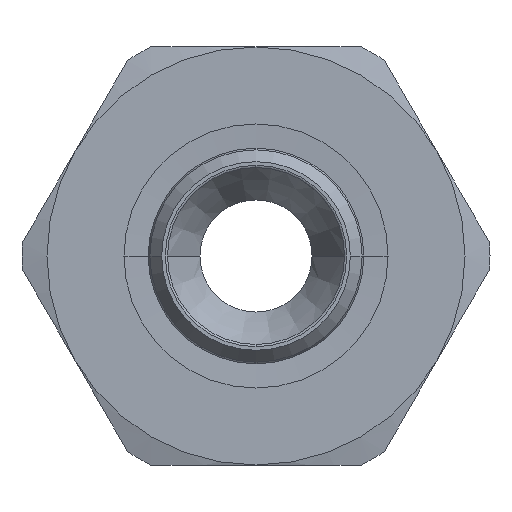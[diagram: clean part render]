
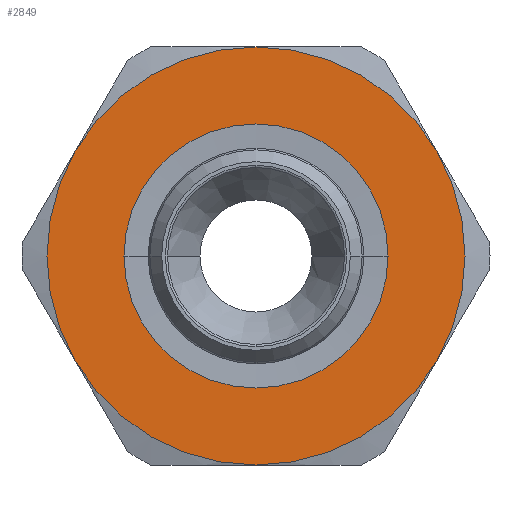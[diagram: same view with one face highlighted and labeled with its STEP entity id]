
A CAD part, left-side view. The second image highlights one B-rep face of the part: STEP entity #2849.
In plain terms, the highlighted planar face has unit normal (-1, 0, 0) as drawn and (0, 0, 1) by its records, which use the part's own axes.
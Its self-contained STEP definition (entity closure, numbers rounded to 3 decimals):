
#1176=CARTESIAN_POINT('',(0.,-12.95,5.));
#1177=VERTEX_POINT('',#1176);
#1193=CARTESIAN_POINT('',(0.,12.95,5.0));
#1194=VERTEX_POINT('',#1193);
#1201=CARTESIAN_POINT('',(0.,0.,5.0));
#1202=DIRECTION('',(0.0,0.0,-1.0));
#1203=DIRECTION('',(0.0,-1.0,0.0));
#1204=AXIS2_PLACEMENT_3D('',#1201,#1202,#1203);
#1205=CIRCLE('',#1204,12.95);
#1206=EDGE_CURVE('',#1177,#1194,#1205,.T.);
#1663=CARTESIAN_POINT('',(0.,0.,5.0));
#1664=DIRECTION('',(0.0,0.0,-1.0));
#1665=DIRECTION('',(0.0,-1.0,0.0));
#1666=AXIS2_PLACEMENT_3D('',#1663,#1664,#1665);
#1667=CIRCLE('',#1666,12.95);
#1668=EDGE_CURVE('',#1194,#1177,#1667,.T.);
#2222=CARTESIAN_POINT('',(10.25,-17.754,5.0));
#2223=VERTEX_POINT('',#2222);
#2237=CARTESIAN_POINT('',(-10.25,-17.754,5.0));
#2238=VERTEX_POINT('',#2237);
#2239=CARTESIAN_POINT('',(0.,0.0,5.0));
#2240=DIRECTION('',(0.0,0.0,1.0));
#2241=DIRECTION('',(1.0,0.0,0.0));
#2242=AXIS2_PLACEMENT_3D('',#2239,#2240,#2241);
#2243=CIRCLE('',#2242,20.5);
#2244=EDGE_CURVE('',#2238,#2223,#2243,.T.);
#2322=CARTESIAN_POINT('',(-20.5,0.,5.0));
#2323=VERTEX_POINT('',#2322);
#2324=CARTESIAN_POINT('',(0.,0.0,5.0));
#2325=DIRECTION('',(0.0,0.0,1.0));
#2326=DIRECTION('',(1.0,0.0,0.0));
#2327=AXIS2_PLACEMENT_3D('',#2324,#2325,#2326);
#2328=CIRCLE('',#2327,20.5);
#2329=EDGE_CURVE('',#2323,#2238,#2328,.T.);
#2406=CARTESIAN_POINT('',(-10.25,17.754,5.0));
#2407=VERTEX_POINT('',#2406);
#2408=CARTESIAN_POINT('',(0.,0.0,5.0));
#2409=DIRECTION('',(0.0,0.0,1.0));
#2410=DIRECTION('',(1.0,0.0,0.0));
#2411=AXIS2_PLACEMENT_3D('',#2408,#2409,#2410);
#2412=CIRCLE('',#2411,20.5);
#2413=EDGE_CURVE('',#2407,#2323,#2412,.T.);
#2490=CARTESIAN_POINT('',(10.25,17.754,5.0));
#2491=VERTEX_POINT('',#2490);
#2492=CARTESIAN_POINT('',(0.,0.0,5.0));
#2493=DIRECTION('',(0.0,0.0,1.0));
#2494=DIRECTION('',(1.0,0.0,0.0));
#2495=AXIS2_PLACEMENT_3D('',#2492,#2493,#2494);
#2496=CIRCLE('',#2495,20.5);
#2497=EDGE_CURVE('',#2491,#2407,#2496,.T.);
#2575=CARTESIAN_POINT('',(20.5,0.0,5.0));
#2576=VERTEX_POINT('',#2575);
#2577=CARTESIAN_POINT('',(0.,0.0,5.0));
#2578=DIRECTION('',(0.0,0.0,1.0));
#2579=DIRECTION('',(1.0,0.0,0.0));
#2580=AXIS2_PLACEMENT_3D('',#2577,#2578,#2579);
#2581=CIRCLE('',#2580,20.5);
#2582=EDGE_CURVE('',#2576,#2491,#2581,.T.);
#2659=CARTESIAN_POINT('',(0.,0.0,5.0));
#2660=DIRECTION('',(0.0,0.0,1.0));
#2661=DIRECTION('',(1.0,0.0,0.0));
#2662=AXIS2_PLACEMENT_3D('',#2659,#2660,#2661);
#2663=CIRCLE('',#2662,20.5);
#2664=EDGE_CURVE('',#2223,#2576,#2663,.T.);
#2832=CARTESIAN_POINT('',(0.,0.,5.0));
#2833=DIRECTION('',(0.0,0.0,1.0));
#2834=DIRECTION('',(1.0,0.0,0.0));
#2835=AXIS2_PLACEMENT_3D('',#2832,#2833,#2834);
#2836=PLANE('',#2835);
#2837=ORIENTED_EDGE('',*,*,#2664,.T.);
#2838=ORIENTED_EDGE('',*,*,#2582,.T.);
#2839=ORIENTED_EDGE('',*,*,#2497,.T.);
#2840=ORIENTED_EDGE('',*,*,#2413,.T.);
#2841=ORIENTED_EDGE('',*,*,#2329,.T.);
#2842=ORIENTED_EDGE('',*,*,#2244,.T.);
#2843=EDGE_LOOP('',(#2837,#2838,#2839,#2840,#2841,#2842));
#2844=FACE_OUTER_BOUND('',#2843,.T.);
#2845=ORIENTED_EDGE('',*,*,#1206,.T.);
#2846=ORIENTED_EDGE('',*,*,#1668,.T.);
#2847=EDGE_LOOP('',(#2845,#2846));
#2848=FACE_BOUND('',#2847,.T.);
#2849=ADVANCED_FACE('',(#2844,#2848),#2836,.T.);
